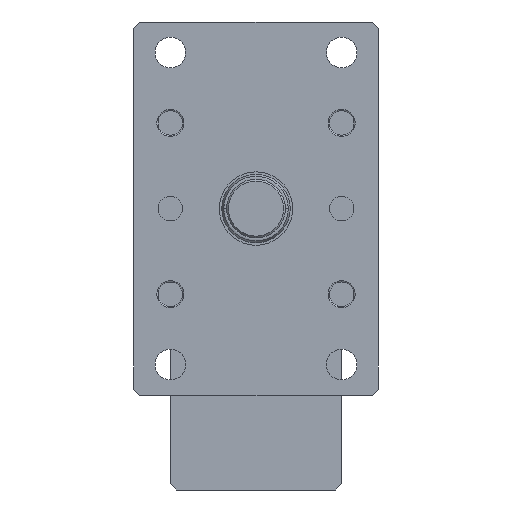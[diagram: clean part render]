
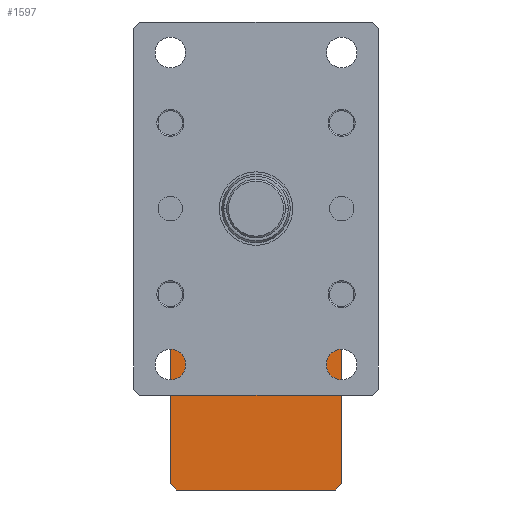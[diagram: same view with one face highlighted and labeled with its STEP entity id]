
A CAD part, left-side view. The second image highlights one B-rep face of the part: STEP entity #1597.
In plain terms, the highlighted planar face has unit normal (-1, 0, 0).
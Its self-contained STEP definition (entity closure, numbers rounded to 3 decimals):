
#190 = VECTOR ( 'NONE', #8382, 1000. ) ;
#231 = CARTESIAN_POINT ( 'NONE',  ( 377.5, 70., -95. ) ) ;
#315 = EDGE_CURVE ( 'NONE', #8715, #623, #1164, .T. ) ;
#566 = CARTESIAN_POINT ( 'NONE',  ( 377.5, -70., -95. ) ) ;
#587 = LINE ( 'NONE', #4666, #7709 ) ;
#623 = VERTEX_POINT ( 'NONE', #8233 ) ;
#1085 = ORIENTED_EDGE ( 'NONE', *, *, #4389, .T. ) ;
#1164 = LINE ( 'NONE', #2152, #4897 ) ;
#1272 = EDGE_CURVE ( 'NONE', #1723, #8715, #3949, .T. ) ;
#1309 = VECTOR ( 'NONE', #4324, 1000. ) ;
#1410 = CARTESIAN_POINT ( 'NONE',  ( 377.5, -65., -230. ) ) ;
#1525 = DIRECTION ( 'NONE',  ( 0., 1., 0. ) ) ;
#1597 = ADVANCED_FACE ( 'NONE', ( #5035 ), #5654, .F. ) ;
#1616 = EDGE_CURVE ( 'NONE', #8463, #6061, #8400, .T. ) ;
#1723 = VERTEX_POINT ( 'NONE', #566 ) ;
#1856 = ORIENTED_EDGE ( 'NONE', *, *, #8689, .F. ) ;
#1933 = LINE ( 'NONE', #5704, #3575 ) ;
#2125 = DIRECTION ( 'NONE',  ( 0., 1., 0. ) ) ;
#2152 = CARTESIAN_POINT ( 'NONE',  ( 377.5, 70., -90. ) ) ;
#2274 = CARTESIAN_POINT ( 'NONE',  ( 377.5, 70., -95. ) ) ;
#2393 = VECTOR ( 'NONE', #2664, 1000. ) ;
#2664 = DIRECTION ( 'NONE',  ( 0., 0., 1. ) ) ;
#2688 = ORIENTED_EDGE ( 'NONE', *, *, #8527, .F. ) ;
#2999 = ORIENTED_EDGE ( 'NONE', *, *, #1616, .T. ) ;
#3047 = DIRECTION ( 'NONE',  ( 0., 0.707, -0.707 ) ) ;
#3064 = EDGE_LOOP ( 'NONE', ( #1085, #5543, #6650, #4473, #2688, #2999, #1856, #5068 ) ) ;
#3197 = LINE ( 'NONE', #231, #8851 ) ;
#3281 = CARTESIAN_POINT ( 'NONE',  ( 377.5, 70., -225. ) ) ;
#3403 = LINE ( 'NONE', #1410, #5050 ) ;
#3575 = VECTOR ( 'NONE', #1525, 1000. ) ;
#3949 = LINE ( 'NONE', #8912, #190 ) ;
#4179 = CARTESIAN_POINT ( 'NONE',  ( 377.5, 65., -230. ) ) ;
#4257 = LINE ( 'NONE', #7451, #2393 ) ;
#4324 = DIRECTION ( 'NONE',  ( 0., -0.707, -0.707 ) ) ;
#4389 = EDGE_CURVE ( 'NONE', #5310, #1723, #587, .T. ) ;
#4473 = ORIENTED_EDGE ( 'NONE', *, *, #6978, .T. ) ;
#4666 = CARTESIAN_POINT ( 'NONE',  ( 377.5, -70., -230. ) ) ;
#4834 = DIRECTION ( 'NONE',  ( 0., 1., 0. ) ) ;
#4857 = DIRECTION ( 'NONE',  ( 1., 0., 0. ) ) ;
#4897 = VECTOR ( 'NONE', #2125, 1000. ) ;
#5035 = FACE_OUTER_BOUND ( 'NONE', #3064, .T. ) ;
#5050 = VECTOR ( 'NONE', #6266, 1000. ) ;
#5067 = CARTESIAN_POINT ( 'NONE',  ( 377.5, 70., -230. ) ) ;
#5068 = ORIENTED_EDGE ( 'NONE', *, *, #7325, .T. ) ;
#5310 = VERTEX_POINT ( 'NONE', #8898 ) ;
#5510 = AXIS2_PLACEMENT_3D ( 'NONE', #5067, #4857, #4834 ) ;
#5543 = ORIENTED_EDGE ( 'NONE', *, *, #1272, .T. ) ;
#5563 = VERTEX_POINT ( 'NONE', #5842 ) ;
#5654 = PLANE ( 'NONE',  #5510 ) ;
#5704 = CARTESIAN_POINT ( 'NONE',  ( 377.5, 70., -230. ) ) ;
#5728 = CARTESIAN_POINT ( 'NONE',  ( 377.5, -65., -90. ) ) ;
#5842 = CARTESIAN_POINT ( 'NONE',  ( 377.5, -65., -230. ) ) ;
#6040 = DIRECTION ( 'NONE',  ( 0., 0., 1. ) ) ;
#6061 = VERTEX_POINT ( 'NONE', #7069 ) ;
#6266 = DIRECTION ( 'NONE',  ( 0., -0.707, 0.707 ) ) ;
#6650 = ORIENTED_EDGE ( 'NONE', *, *, #315, .T. ) ;
#6909 = VERTEX_POINT ( 'NONE', #2274 ) ;
#6978 = EDGE_CURVE ( 'NONE', #623, #6909, #3197, .T. ) ;
#7069 = CARTESIAN_POINT ( 'NONE',  ( 377.5, 65., -230. ) ) ;
#7325 = EDGE_CURVE ( 'NONE', #5563, #5310, #3403, .T. ) ;
#7451 = CARTESIAN_POINT ( 'NONE',  ( 377.5, 70., -230. ) ) ;
#7709 = VECTOR ( 'NONE', #6040, 1000. ) ;
#8233 = CARTESIAN_POINT ( 'NONE',  ( 377.5, 65., -90. ) ) ;
#8382 = DIRECTION ( 'NONE',  ( 0., 0.707, 0.707 ) ) ;
#8400 = LINE ( 'NONE', #4179, #1309 ) ;
#8463 = VERTEX_POINT ( 'NONE', #3281 ) ;
#8527 = EDGE_CURVE ( 'NONE', #8463, #6909, #4257, .T. ) ;
#8689 = EDGE_CURVE ( 'NONE', #5563, #6061, #1933, .T. ) ;
#8715 = VERTEX_POINT ( 'NONE', #5728 ) ;
#8851 = VECTOR ( 'NONE', #3047, 1000. ) ;
#8898 = CARTESIAN_POINT ( 'NONE',  ( 377.5, -70., -225. ) ) ;
#8912 = CARTESIAN_POINT ( 'NONE',  ( 377.5, -70., -95. ) ) ;
